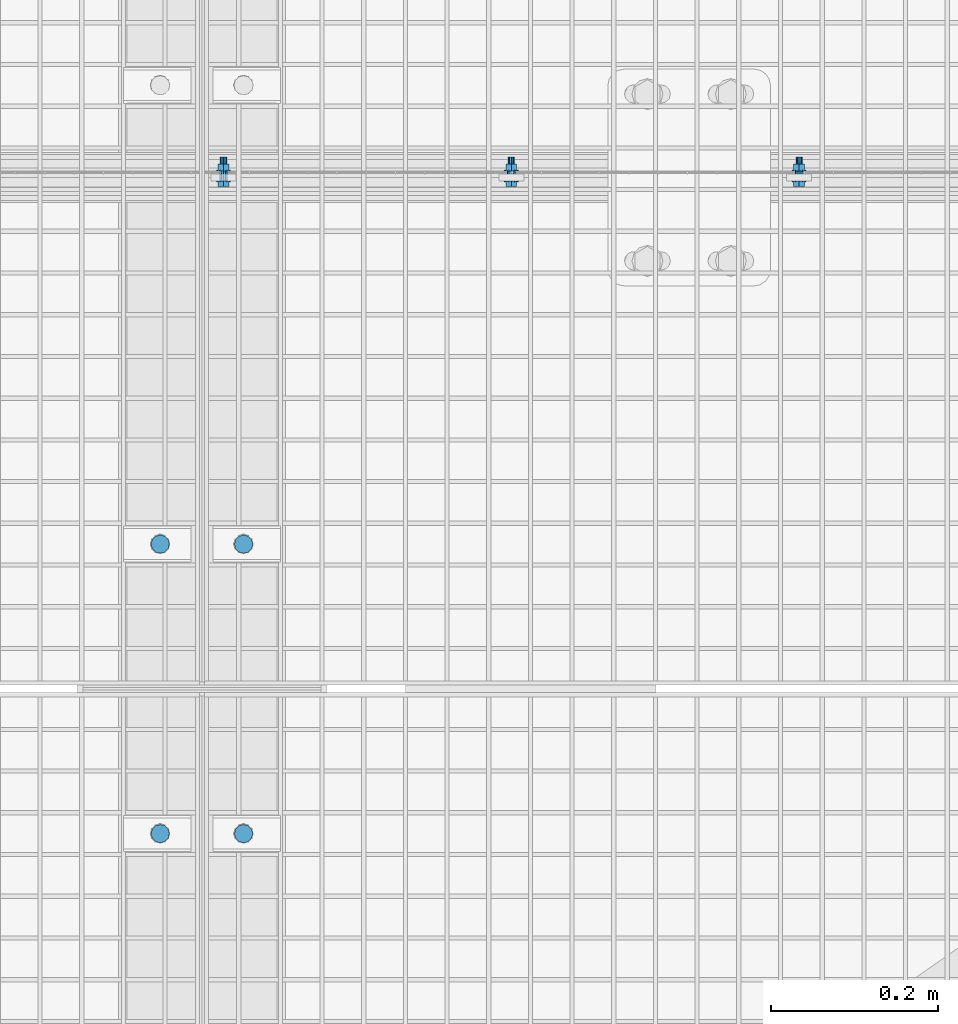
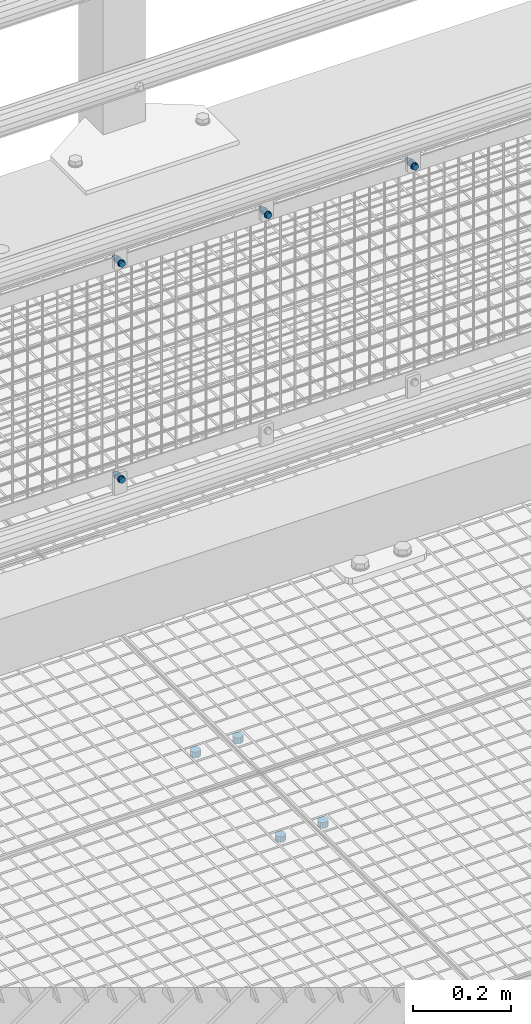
# One storey, part 96 of 1530: 8 mechanical fasteners.
"""IFC2X3 building model written with IfcOpenShell, lengths in millimetres."""

from ifc_helpers import new_model, si_unit, frame, origin_with_axes, place, context, subcontext, project, spatial, faceted_brep, source, transform, mapped, material, type_object, element, save


model = new_model("IFC2X3")

# Units and contexts
model_context = context("Model", 3, precision=1e-05, world=origin_with_axes())
body_context = subcontext(model_context, "Body", "Model", "MODEL_VIEW")
ifc_project = project(units=[si_unit("LENGTHUNIT", "METRE", prefix="MILLI"), si_unit("AREAUNIT", "SQUARE_METRE"), si_unit("VOLUMEUNIT", "CUBIC_METRE"), si_unit("MASSUNIT", "GRAM", prefix="KILO"), si_unit("TIMEUNIT", "SECOND"), si_unit("PLANEANGLEUNIT", "RADIAN"), si_unit("SOLIDANGLEUNIT", "STERADIAN"), si_unit("THERMODYNAMICTEMPERATUREUNIT", "DEGREE_CELSIUS"), si_unit("LUMINOUSINTENSITYUNIT", "LUMEN")], contexts=[model_context])

# Site, building, storey
site_placement = place(None, origin_with_axes())
site = spatial("IfcSite", under=ifc_project, at=site_placement, Name="Brattvåg", CompositionType="ELEMENT")
building_placement = place(site_placement, origin_with_axes())
building = spatial("IfcBuilding", under=site, at=building_placement, Name="Undefined", CompositionType="ELEMENT")
storey_placement = place(building_placement, origin_with_axes())
storey = spatial("IfcBuildingStorey", under=building, at=storey_placement, Name="Undefined", CompositionType="ELEMENT", Elevation=0.0)

# Mechanical fasteners
ifc_material = material(Name="8")
mechanical_fastener_type = type_object("IfcMechanicalFastenerType", Name="Bolt assembly")
shared_shape_1 = source(origin_with_axes(), body_context, "Body", "Brep", [
    faceted_brep([(11.0, -4.99999999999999, 0.0), (9.52627944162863, -4.99999999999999, 5.50000000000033), (5.49999999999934, -4.99999999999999, 9.5262794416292), (-1.13996957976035e-12, -4.99999999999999, 11.0), (-5.50000000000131, -4.99999999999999, 9.52627944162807), (-9.52627944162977, -4.99999999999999, 5.49999999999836), (-11.0, -4.99999999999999, -2.27993915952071e-12), (-9.5262794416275, -4.99999999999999, -5.5000000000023), (-5.49999999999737, -4.99999999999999, -9.52627944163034), (3.40769628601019e-12, -4.99999999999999, -11.0), (5.50000000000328, -4.99999999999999, -9.52627944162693), (9.52627944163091, -4.99999999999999, -5.49999999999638), (9.52627944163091, 10.1, -5.49999999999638), (5.50000000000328, 10.1, -9.52627944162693), (3.40769628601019e-12, 10.1, -11.0), (-5.49999999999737, 10.1, -9.52627944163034), (-9.5262794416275, 10.1, -5.5000000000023), (-11.0, 10.1, -2.27993915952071e-12), (-9.52627944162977, 10.1, 5.49999999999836), (-5.50000000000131, 10.1, 9.52627944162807), (-1.13996957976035e-12, 10.1, 11.0), (5.49999999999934, 10.1, 9.5262794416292), (9.52627944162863, 10.1, 5.50000000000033), (11.0, 10.1, 0.0)], [[[0, 1, 2, 3, 4, 5, 6, 7, 8, 9, 10, 11]], [[12, 13, 14, 15, 16, 17, 18, 19, 20, 21, 22, 23]], [[0, 23, 22, 1]], [[1, 22, 21, 2]], [[2, 21, 20, 3]], [[3, 20, 19, 4]], [[4, 19, 18, 5]], [[5, 18, 17, 6]], [[6, 17, 16, 7]], [[7, 16, 15, 8]], [[8, 15, 14, 9]], [[9, 14, 13, 10]], [[10, 13, 12, 11]], [[11, 12, 23, 0]]]),
])
for number, where, z_axis, x_axis, name in (
    (1, (12300.0047793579, 7224.98931152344, -35.0), (0.0, 1.0, 0.0), (1.0, 0.0, 0.0), "Bolt assembly"),
    (2, (12300.0047793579, 6877.99411010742, -35.0), (0.0, 1.0, 0.0), (1.0, 0.0, 0.0), "Bolt assembly"),
    (3, (12200.0148773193, 7224.9904864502, -35.0), (0.0, -1.0, 0.0), (-1.0, 1.99999855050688e-09, 0.0), "Bolt assembly"),
    (4, (12200.0148773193, 6877.99411010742, -35.0), (0.0, -1.0, 0.0), (-1.0, 1.99999855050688e-09, 0.0), "Bolt assembly"),
):
    element("IfcMechanicalFastener", number, at=place(storey_placement, frame(where, z_axis=z_axis, x_axis=x_axis)), inside=storey, type_object=mechanical_fastener_type, material=ifc_material, Name=name, NominalDiameter=20.0, NominalLength=15.0, context=body_context, shape_type="MappedRepresentation", body=[
        mapped(shared_shape_1, transform((0.0, 0.0, 0.0))),
    ])
shared_shape_2 = source(origin_with_axes(), body_context, "Body", "Brep", [
    faceted_brep([(7.50555349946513, -6.90000021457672, 0.0), (3.75277674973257, -6.90000021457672, 6.5), (-3.75277674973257, -6.90000021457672, 6.5), (-7.50555349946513, -6.90000021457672, 9.19165206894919e-16), (-3.75277674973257, -6.90000021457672, -6.5), (3.75277674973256, -6.90000021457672, -6.5), (3.75277674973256, -1.60000002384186, -6.5), (-3.75277674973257, -1.60000002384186, -6.5), (-7.50555349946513, -1.60000002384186, 9.19165206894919e-16), (-3.75277674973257, -1.60000002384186, 6.5), (3.75277674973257, -1.60000002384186, 6.5), (7.50555349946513, -1.60000002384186, 0.0), (4.0, -1.60000002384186, 0.0), (3.46410161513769, -1.60000002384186, 2.00000000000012), (1.99999999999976, -1.60000002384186, 3.46410161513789), (-4.14534392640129e-13, -1.60000002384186, 4.0), (-2.00000000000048, -1.60000002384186, 3.46410161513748), (-3.4641016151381, -1.60000002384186, 1.9999999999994), (-4.0, -1.60000002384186, -8.29068785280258e-13), (-3.46410161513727, -1.60000002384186, -2.00000000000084), (-1.99999999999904, -1.60000002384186, -3.46410161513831), (1.23916228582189e-12, -1.60000002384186, -4.0), (2.00000000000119, -1.60000002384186, -3.46410161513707), (3.46410161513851, -1.60000002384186, -1.99999999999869), (3.46410161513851, 28.3999999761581, -1.99999999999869), (2.00000000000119, 28.3999999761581, -3.46410161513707), (1.23916228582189e-12, 28.3999999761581, -4.0), (-1.99999999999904, 28.3999999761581, -3.46410161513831), (-3.46410161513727, 28.3999999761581, -2.00000000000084), (-4.0, 28.3999999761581, -8.29068785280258e-13), (-3.4641016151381, 28.3999999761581, 1.9999999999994), (-2.00000000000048, 28.3999999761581, 3.46410161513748), (-4.14534392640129e-13, 28.3999999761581, 4.0), (1.99999999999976, 28.3999999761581, 3.46410161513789), (3.46410161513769, 28.3999999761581, 2.00000000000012), (4.0, 28.3999999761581, 0.0), (8.5, -1.60000002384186, 0.0), (7.36121593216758, -1.60000002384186, 4.25000000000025), (4.24999999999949, -1.60000002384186, 7.36121593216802), (-8.80885584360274e-13, -1.60000002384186, 8.5), (-4.25000000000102, -1.60000002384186, 7.36121593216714), (-7.36121593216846, -1.60000002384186, 4.24999999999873), (-8.5, -1.60000002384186, -1.76177116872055e-12), (-7.3612159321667, -1.60000002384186, -4.25000000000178), (-4.24999999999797, -1.60000002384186, -7.3612159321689), (2.63321985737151e-12, -1.60000002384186, -8.5), (4.25000000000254, -1.60000002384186, -7.36121593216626), (7.36121593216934, -1.60000002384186, -4.24999999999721), (7.36121593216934, 0.0, -4.24999999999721), (4.25000000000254, 0.0, -7.36121593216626), (2.63321985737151e-12, 0.0, -8.5), (-4.24999999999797, 0.0, -7.3612159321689), (-7.3612159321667, 0.0, -4.25000000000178), (-8.5, 0.0, -1.76177116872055e-12), (-7.36121593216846, 0.0, 4.24999999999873), (-4.25000000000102, 0.0, 7.36121593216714), (-8.80885584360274e-13, 0.0, 8.5), (4.24999999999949, 0.0, 7.36121593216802), (7.36121593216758, 0.0, 4.25000000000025), (8.5, 0.0, 0.0), (8.5, 11.5015258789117, 0.0), (7.36121593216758, 11.5015258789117, 4.25000000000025), (4.24999999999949, 11.5015258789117, 7.36121593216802), (-8.80885584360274e-13, 11.5015258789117, 8.5), (-4.25000000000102, 11.5015258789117, 7.36121593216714), (-7.36121593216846, 11.5015258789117, 4.24999999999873), (-8.5, 11.5015258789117, -1.76177116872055e-12), (-7.3612159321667, 11.5015258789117, -4.25000000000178), (-4.24999999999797, 11.5015258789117, -7.3612159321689), (2.63321985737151e-12, 11.5015258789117, -8.5), (4.25000000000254, 11.5015258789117, -7.36121593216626), (7.36121593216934, 11.5015258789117, -4.24999999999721), (7.36121593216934, 13.1015259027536, -4.24999999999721), (4.25000000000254, 13.1015259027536, -7.36121593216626), (2.63321985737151e-12, 13.1015259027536, -8.5), (-4.24999999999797, 13.1015259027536, -7.3612159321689), (-7.3612159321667, 13.1015259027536, -4.25000000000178), (-8.5, 13.1015259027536, -1.76177116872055e-12), (-7.36121593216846, 13.1015259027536, 4.24999999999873), (-4.25000000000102, 13.1015259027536, 7.36121593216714), (-8.80885584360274e-13, 13.1015259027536, 8.5), (4.24999999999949, 13.1015259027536, 7.36121593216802), (7.36121593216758, 13.1015259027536, 4.25000000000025), (8.5, 13.1015259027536, 0.0), (7.50555349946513, 13.1015259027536, 0.0), (3.75277674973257, 13.1015259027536, 6.5), (-3.75277674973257, 13.1015259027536, 6.5), (-7.50555349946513, 13.1015259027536, 9.19165206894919e-16), (-3.75277674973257, 13.1015259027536, -6.5), (3.75277674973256, 13.1015259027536, -6.5), (3.75277674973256, 19.9015260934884, -6.5), (-3.75277674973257, 19.9015260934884, -6.5), (-7.50555349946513, 19.9015260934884, 9.19165206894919e-16), (-3.75277674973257, 19.9015260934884, 6.5), (3.75277674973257, 19.9015260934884, 6.5), (7.50555349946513, 19.9015260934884, 0.0)], [[[0, 1, 2, 3, 4, 5]], [[6, 7, 8, 9, 10, 11]], [[0, 11, 10, 1]], [[1, 10, 9, 2]], [[2, 9, 8, 3]], [[3, 8, 7, 4]], [[4, 7, 6, 5]], [[5, 6, 11, 0]], [[12, 13, 14, 15, 16, 17, 18, 19, 20, 21, 22, 23]], [[24, 25, 26, 27, 28, 29, 30, 31, 32, 33, 34, 35]], [[12, 35, 34, 13]], [[13, 34, 33, 14]], [[14, 33, 32, 15]], [[15, 32, 31, 16]], [[16, 31, 30, 17]], [[17, 30, 29, 18]], [[18, 29, 28, 19]], [[19, 28, 27, 20]], [[20, 27, 26, 21]], [[21, 26, 25, 22]], [[22, 25, 24, 23]], [[23, 24, 35, 12]], [[36, 37, 38, 39, 40, 41, 42, 43, 44, 45, 46, 47]], [[48, 49, 50, 51, 52, 53, 54, 55, 56, 57, 58, 59]], [[36, 59, 58, 37]], [[37, 58, 57, 38]], [[38, 57, 56, 39]], [[39, 56, 55, 40]], [[40, 55, 54, 41]], [[41, 54, 53, 42]], [[42, 53, 52, 43]], [[43, 52, 51, 44]], [[44, 51, 50, 45]], [[45, 50, 49, 46]], [[46, 49, 48, 47]], [[47, 48, 59, 36]], [[60, 61, 62, 63, 64, 65, 66, 67, 68, 69, 70, 71]], [[72, 73, 74, 75, 76, 77, 78, 79, 80, 81, 82, 83]], [[60, 83, 82, 61]], [[61, 82, 81, 62]], [[62, 81, 80, 63]], [[63, 80, 79, 64]], [[64, 79, 78, 65]], [[65, 78, 77, 66]], [[66, 77, 76, 67]], [[67, 76, 75, 68]], [[68, 75, 74, 69]], [[69, 74, 73, 70]], [[70, 73, 72, 71]], [[71, 72, 83, 60]], [[84, 85, 86, 87, 88, 89]], [[90, 91, 92, 93, 94, 95]], [[84, 95, 94, 85]], [[85, 94, 93, 86]], [[86, 93, 92, 87]], [[87, 92, 91, 88]], [[88, 91, 90, 89]], [[89, 90, 95, 84]]]),
    faceted_brep([(5.0, 0.1, 0.0), (4.33012701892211, 0.1, 2.50000000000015), (2.4999999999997, 0.1, 4.33012701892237), (-5.18167990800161e-13, 0.1, 5.0), (-2.5000000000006, 0.1, 4.33012701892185), (-4.33012701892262, 0.1, 2.49999999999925), (-5.0, 0.1, -1.03633598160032e-12), (-4.33012701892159, 0.1, -2.50000000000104), (-2.49999999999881, 0.1, -4.33012701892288), (1.54895285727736e-12, 0.1, -5.0), (2.50000000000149, 0.1, -4.33012701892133), (4.33012701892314, 0.1, -2.49999999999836), (4.33012701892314, 8.1, -2.49999999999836), (2.50000000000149, 8.1, -4.33012701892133), (1.54895285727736e-12, 8.1, -5.0), (-2.49999999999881, 8.1, -4.33012701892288), (-4.33012701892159, 8.1, -2.50000000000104), (-5.0, 8.1, -1.03633598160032e-12), (-4.33012701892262, 8.1, 2.49999999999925), (-2.5000000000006, 8.1, 4.33012701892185), (-5.18167990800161e-13, 8.1, 5.0), (2.4999999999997, 8.1, 4.33012701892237), (4.33012701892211, 8.1, 2.50000000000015), (5.0, 8.1, 0.0), (5.0, 8.40152587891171, 0.0), (4.33012701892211, 8.40152587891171, 2.50000000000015), (2.4999999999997, 8.40152587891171, 4.33012701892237), (-5.18167990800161e-13, 8.40152587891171, 5.0), (-2.5000000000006, 8.40152587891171, 4.33012701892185), (-4.33012701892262, 8.40152587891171, 2.49999999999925), (-5.0, 8.40152587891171, -1.03633598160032e-12), (-4.33012701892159, 8.40152587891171, -2.50000000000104), (-2.49999999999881, 8.40152587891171, -4.33012701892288), (1.54895285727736e-12, 8.40152587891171, -5.0), (2.50000000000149, 8.40152587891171, -4.33012701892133), (4.33012701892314, 8.40152587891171, -2.49999999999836), (4.33012701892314, 11.5015258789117, -2.49999999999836), (2.50000000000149, 11.5015258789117, -4.33012701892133), (1.54895285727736e-12, 11.5015258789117, -5.0), (-2.49999999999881, 11.5015258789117, -4.33012701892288), (-4.33012701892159, 11.5015258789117, -2.50000000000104), (-5.0, 11.5015258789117, -1.03633598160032e-12), (-4.33012701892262, 11.5015258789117, 2.49999999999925), (-2.5000000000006, 11.5015258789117, 4.33012701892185), (-5.18167990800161e-13, 11.5015258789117, 5.0), (2.4999999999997, 11.5015258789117, 4.33012701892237), (4.33012701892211, 11.5015258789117, 2.50000000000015), (5.0, 11.5015258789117, 0.0)], [[[0, 1, 2, 3, 4, 5, 6, 7, 8, 9, 10, 11]], [[12, 13, 14, 15, 16, 17, 18, 19, 20, 21, 22, 23]], [[0, 23, 22, 1]], [[1, 22, 21, 2]], [[2, 21, 20, 3]], [[3, 20, 19, 4]], [[4, 19, 18, 5]], [[5, 18, 17, 6]], [[6, 17, 16, 7]], [[7, 16, 15, 8]], [[8, 15, 14, 9]], [[9, 14, 13, 10]], [[10, 13, 12, 11]], [[11, 12, 23, 0]], [[24, 25, 26, 27, 28, 29, 30, 31, 32, 33, 34, 35]], [[36, 37, 38, 39, 40, 41, 42, 43, 44, 45, 46, 47]], [[24, 47, 46, 25]], [[25, 46, 45, 26]], [[26, 45, 44, 27]], [[27, 44, 43, 28]], [[28, 43, 42, 29]], [[29, 42, 41, 30]], [[30, 41, 40, 31]], [[31, 40, 39, 32]], [[32, 39, 38, 33]], [[33, 38, 37, 34]], [[34, 37, 36, 35]], [[35, 36, 47, 24]]]),
])
for number, where, z_axis, x_axis, name in (
    (5, (12275.8511047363, 7660.49950027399, 889.680069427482), (-1.0, 1.99999855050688e-09, 0.0), (0.0, 0.0, 1.0), "Bolt assembly"),
    (6, (12620.8504180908, 7660.49950027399, 889.680069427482), (-1.0, 1.99999855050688e-09, 0.0), (0.0, 0.0, 1.0), "Bolt assembly"),
    (7, (12965.8516387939, 7660.49950027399, 889.680069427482), (-1.0, 1.99999855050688e-09, 0.0), (0.0, 0.0, 1.0), "Bolt assembly"),
):
    element("IfcMechanicalFastener", number, at=place(storey_placement, frame(where, z_axis=z_axis, x_axis=x_axis)), inside=storey, type_object=mechanical_fastener_type, material=ifc_material, Name=name, NominalDiameter=8.0, NominalLength=30.0, context=body_context, shape_type="MappedRepresentation", body=[
        mapped(shared_shape_2, transform((0.0, 0.0, 0.0))),
    ])
shared_shape_3 = source(origin_with_axes(), body_context, "Body", "Brep", [
    faceted_brep([(7.50555349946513, -6.899000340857, 0.0), (3.75277674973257, -6.899000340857, 6.5), (-3.75277674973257, -6.899000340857, 6.5), (-7.50555349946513, -6.899000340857, 9.19165206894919e-16), (-3.75277674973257, -6.899000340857, -6.5), (3.75277674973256, -6.899000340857, -6.5), (3.75277674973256, -1.59900015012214, -6.5), (-3.75277674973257, -1.59900015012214, -6.5), (-7.50555349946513, -1.59900015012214, 9.19165206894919e-16), (-3.75277674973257, -1.59900015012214, 6.5), (3.75277674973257, -1.59900015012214, 6.5), (7.50555349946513, -1.59900015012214, 0.0), (4.0, -1.59900015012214, 0.0), (3.46410161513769, -1.59900015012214, 2.00000000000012), (1.99999999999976, -1.59900015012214, 3.46410161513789), (-4.14534392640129e-13, -1.59900015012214, 4.0), (-2.00000000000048, -1.59900015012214, 3.46410161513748), (-3.4641016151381, -1.59900015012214, 1.9999999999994), (-4.0, -1.59900015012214, -8.29068785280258e-13), (-3.46410161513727, -1.59900015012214, -2.00000000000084), (-1.99999999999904, -1.59900015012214, -3.46410161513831), (1.23916228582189e-12, -1.59900015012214, -4.0), (2.00000000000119, -1.59900015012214, -3.46410161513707), (3.46410161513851, -1.59900015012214, -1.99999999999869), (3.46410161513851, 28.4009998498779, -1.99999999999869), (2.00000000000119, 28.4009998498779, -3.46410161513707), (1.23916228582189e-12, 28.4009998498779, -4.0), (-1.99999999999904, 28.4009998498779, -3.46410161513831), (-3.46410161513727, 28.4009998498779, -2.00000000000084), (-4.0, 28.4009998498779, -8.29068785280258e-13), (-3.4641016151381, 28.4009998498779, 1.9999999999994), (-2.00000000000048, 28.4009998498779, 3.46410161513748), (-4.14534392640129e-13, 28.4009998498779, 4.0), (1.99999999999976, 28.4009998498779, 3.46410161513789), (3.46410161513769, 28.4009998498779, 2.00000000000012), (4.0, 28.4009998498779, 0.0), (8.5, -1.59900015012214, 0.0), (7.36121593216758, -1.59900015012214, 4.25000000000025), (4.24999999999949, -1.59900015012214, 7.36121593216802), (-8.80885584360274e-13, -1.59900015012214, 8.5), (-4.25000000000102, -1.59900015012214, 7.36121593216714), (-7.36121593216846, -1.59900015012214, 4.24999999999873), (-8.5, -1.59900015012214, -1.76177116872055e-12), (-7.3612159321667, -1.59900015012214, -4.25000000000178), (-4.24999999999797, -1.59900015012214, -7.3612159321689), (2.63321985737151e-12, -1.59900015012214, -8.5), (4.25000000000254, -1.59900015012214, -7.36121593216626), (7.36121593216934, -1.59900015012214, -4.24999999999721), (7.36121593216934, 0.000999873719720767, -4.24999999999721), (4.25000000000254, 0.000999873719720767, -7.36121593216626), (2.63321985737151e-12, 0.000999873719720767, -8.5), (-4.24999999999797, 0.000999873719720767, -7.3612159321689), (-7.3612159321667, 0.000999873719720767, -4.25000000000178), (-8.5, 0.000999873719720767, -1.76177116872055e-12), (-7.36121593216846, 0.000999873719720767, 4.24999999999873), (-4.25000000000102, 0.000999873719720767, 7.36121593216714), (-8.80885584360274e-13, 0.000999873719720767, 8.5), (4.24999999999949, 0.000999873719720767, 7.36121593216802), (7.36121593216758, 0.000999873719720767, 4.25000000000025), (8.5, 0.000999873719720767, 0.0), (8.5, 11.5039814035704, 0.0), (7.36121593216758, 11.5039814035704, 4.25000000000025), (4.24999999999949, 11.5039814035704, 7.36121593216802), (-8.80885584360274e-13, 11.5039814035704, 8.5), (-4.25000000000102, 11.5039814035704, 7.36121593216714), (-7.36121593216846, 11.5039814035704, 4.24999999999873), (-8.5, 11.5039814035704, -1.76177116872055e-12), (-7.3612159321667, 11.5039814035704, -4.25000000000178), (-4.24999999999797, 11.5039814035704, -7.3612159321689), (2.63321985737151e-12, 11.5039814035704, -8.5), (4.25000000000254, 11.5039814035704, -7.36121593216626), (7.36121593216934, 11.5039814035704, -4.24999999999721), (7.36121593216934, 13.1039814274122, -4.24999999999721), (4.25000000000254, 13.1039814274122, -7.36121593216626), (2.63321985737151e-12, 13.1039814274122, -8.5), (-4.24999999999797, 13.1039814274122, -7.3612159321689), (-7.3612159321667, 13.1039814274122, -4.25000000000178), (-8.5, 13.1039814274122, -1.76177116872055e-12), (-7.36121593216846, 13.1039814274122, 4.24999999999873), (-4.25000000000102, 13.1039814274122, 7.36121593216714), (-8.80885584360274e-13, 13.1039814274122, 8.5), (4.24999999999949, 13.1039814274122, 7.36121593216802), (7.36121593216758, 13.1039814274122, 4.25000000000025), (8.5, 13.1039814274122, 0.0), (7.50555349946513, 13.1039814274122, 0.0), (3.75277674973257, 13.1039814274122, 6.5), (-3.75277674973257, 13.1039814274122, 6.5), (-7.50555349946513, 13.1039814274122, 9.19165206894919e-16), (-3.75277674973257, 13.1039814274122, -6.5), (3.75277674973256, 13.1039814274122, -6.5), (3.75277674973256, 19.9039816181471, -6.5), (-3.75277674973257, 19.9039816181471, -6.5), (-7.50555349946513, 19.9039816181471, 9.19165206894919e-16), (-3.75277674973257, 19.9039816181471, 6.5), (3.75277674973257, 19.9039816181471, 6.5), (7.50555349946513, 19.9039816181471, 0.0)], [[[0, 1, 2, 3, 4, 5]], [[6, 7, 8, 9, 10, 11]], [[0, 11, 10, 1]], [[1, 10, 9, 2]], [[2, 9, 8, 3]], [[3, 8, 7, 4]], [[4, 7, 6, 5]], [[5, 6, 11, 0]], [[12, 13, 14, 15, 16, 17, 18, 19, 20, 21, 22, 23]], [[24, 25, 26, 27, 28, 29, 30, 31, 32, 33, 34, 35]], [[12, 35, 34, 13]], [[13, 34, 33, 14]], [[14, 33, 32, 15]], [[15, 32, 31, 16]], [[16, 31, 30, 17]], [[17, 30, 29, 18]], [[18, 29, 28, 19]], [[19, 28, 27, 20]], [[20, 27, 26, 21]], [[21, 26, 25, 22]], [[22, 25, 24, 23]], [[23, 24, 35, 12]], [[36, 37, 38, 39, 40, 41, 42, 43, 44, 45, 46, 47]], [[48, 49, 50, 51, 52, 53, 54, 55, 56, 57, 58, 59]], [[36, 59, 58, 37]], [[37, 58, 57, 38]], [[38, 57, 56, 39]], [[39, 56, 55, 40]], [[40, 55, 54, 41]], [[41, 54, 53, 42]], [[42, 53, 52, 43]], [[43, 52, 51, 44]], [[44, 51, 50, 45]], [[45, 50, 49, 46]], [[46, 49, 48, 47]], [[47, 48, 59, 36]], [[60, 61, 62, 63, 64, 65, 66, 67, 68, 69, 70, 71]], [[72, 73, 74, 75, 76, 77, 78, 79, 80, 81, 82, 83]], [[60, 83, 82, 61]], [[61, 82, 81, 62]], [[62, 81, 80, 63]], [[63, 80, 79, 64]], [[64, 79, 78, 65]], [[65, 78, 77, 66]], [[66, 77, 76, 67]], [[67, 76, 75, 68]], [[68, 75, 74, 69]], [[69, 74, 73, 70]], [[70, 73, 72, 71]], [[71, 72, 83, 60]], [[84, 85, 86, 87, 88, 89]], [[90, 91, 92, 93, 94, 95]], [[84, 95, 94, 85]], [[85, 94, 93, 86]], [[86, 93, 92, 87]], [[87, 92, 91, 88]], [[88, 91, 90, 89]], [[89, 90, 95, 84]]]),
    faceted_brep([(5.0, 0.100999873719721, 0.0), (4.33012701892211, 0.100999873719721, 2.50000000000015), (2.4999999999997, 0.100999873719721, 4.33012701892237), (-5.18167990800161e-13, 0.100999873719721, 5.0), (-2.5000000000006, 0.100999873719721, 4.33012701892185), (-4.33012701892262, 0.100999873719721, 2.49999999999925), (-5.0, 0.100999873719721, -1.03633598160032e-12), (-4.33012701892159, 0.100999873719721, -2.50000000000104), (-2.49999999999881, 0.100999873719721, -4.33012701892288), (1.54895285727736e-12, 0.100999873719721, -5.0), (2.50000000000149, 0.100999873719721, -4.33012701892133), (4.33012701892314, 0.100999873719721, -2.49999999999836), (4.33012701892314, 8.10099988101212, -2.49999999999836), (2.50000000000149, 8.10099988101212, -4.33012701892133), (1.54895285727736e-12, 8.10099988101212, -5.0), (-2.49999999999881, 8.10099988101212, -4.33012701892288), (-4.33012701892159, 8.10099988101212, -2.50000000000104), (-5.0, 8.10099988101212, -1.03633598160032e-12), (-4.33012701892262, 8.10099988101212, 2.49999999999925), (-2.5000000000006, 8.10099988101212, 4.33012701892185), (-5.18167990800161e-13, 8.10099988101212, 5.0), (2.4999999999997, 8.10099988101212, 4.33012701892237), (4.33012701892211, 8.10099988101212, 2.50000000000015), (5.0, 8.10099988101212, 0.0), (5.0, 8.40398140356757, 0.0), (4.33012701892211, 8.40398140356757, 2.50000000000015), (2.4999999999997, 8.40398140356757, 4.33012701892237), (-5.18167990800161e-13, 8.40398140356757, 5.0), (-2.5000000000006, 8.40398140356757, 4.33012701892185), (-4.33012701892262, 8.40398140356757, 2.49999999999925), (-5.0, 8.40398140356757, -1.03633598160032e-12), (-4.33012701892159, 8.40398140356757, -2.50000000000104), (-2.49999999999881, 8.40398140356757, -4.33012701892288), (1.54895285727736e-12, 8.40398140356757, -5.0), (2.50000000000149, 8.40398140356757, -4.33012701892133), (4.33012701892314, 8.40398140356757, -2.49999999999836), (4.33012701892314, 11.5039814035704, -2.49999999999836), (2.50000000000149, 11.5039814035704, -4.33012701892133), (1.54895285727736e-12, 11.5039814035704, -5.0), (-2.49999999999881, 11.5039814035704, -4.33012701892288), (-4.33012701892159, 11.5039814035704, -2.50000000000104), (-5.0, 11.5039814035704, -1.03633598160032e-12), (-4.33012701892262, 11.5039814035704, 2.49999999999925), (-2.5000000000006, 11.5039814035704, 4.33012701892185), (-5.18167990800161e-13, 11.5039814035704, 5.0), (2.4999999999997, 11.5039814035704, 4.33012701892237), (4.33012701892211, 11.5039814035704, 2.50000000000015), (5.0, 11.5039814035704, 0.0)], [[[0, 1, 2, 3, 4, 5, 6, 7, 8, 9, 10, 11]], [[12, 13, 14, 15, 16, 17, 18, 19, 20, 21, 22, 23]], [[0, 23, 22, 1]], [[1, 22, 21, 2]], [[2, 21, 20, 3]], [[3, 20, 19, 4]], [[4, 19, 18, 5]], [[5, 18, 17, 6]], [[6, 17, 16, 7]], [[7, 16, 15, 8]], [[8, 15, 14, 9]], [[9, 14, 13, 10]], [[10, 13, 12, 11]], [[11, 12, 23, 0]], [[24, 25, 26, 27, 28, 29, 30, 31, 32, 33, 34, 35]], [[36, 37, 38, 39, 40, 41, 42, 43, 44, 45, 46, 47]], [[24, 47, 46, 25]], [[25, 46, 45, 26]], [[26, 45, 44, 27]], [[27, 44, 43, 28]], [[28, 43, 42, 29]], [[29, 42, 41, 30]], [[30, 41, 40, 31]], [[31, 40, 39, 32]], [[32, 39, 38, 33]], [[33, 38, 37, 34]], [[34, 37, 36, 35]], [[35, 36, 47, 24]]]),
])
mechanical_fastener_placement = place(storey_placement, frame((12275.8507614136, 7660.49843978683, 352.299672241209), z_axis=(-1.0, 1.99999855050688e-09, 0.0), x_axis=(0.0, 0.0, 1.0)))
element("IfcMechanicalFastener", 8, at=mechanical_fastener_placement, inside=storey, type_object=mechanical_fastener_type, material=ifc_material, Name="Bolt assembly", NominalDiameter=8.0, NominalLength=30.0, context=body_context, shape_type="MappedRepresentation", body=[
    mapped(shared_shape_3, transform((0.0, 0.0, 0.0))),
])

save(model, "model.ifc")
